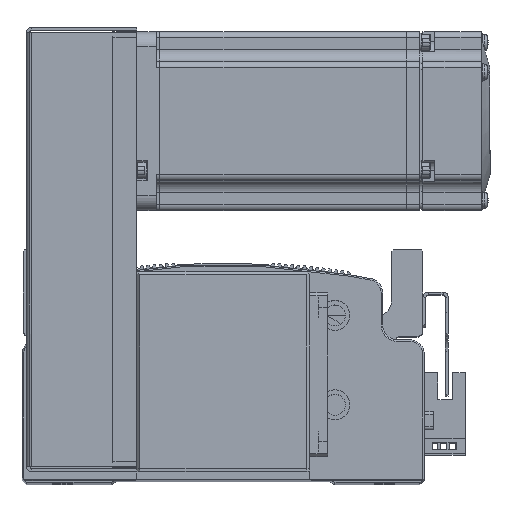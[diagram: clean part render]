
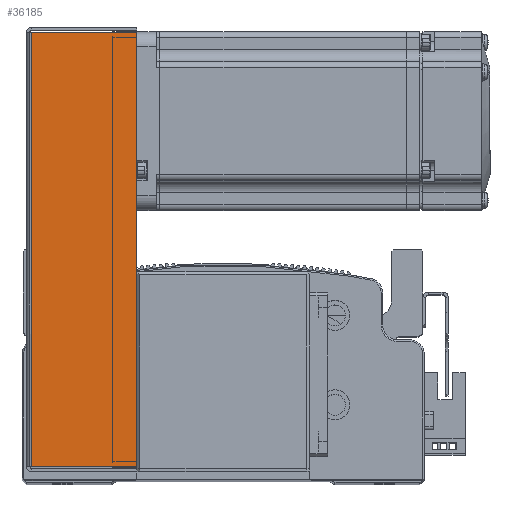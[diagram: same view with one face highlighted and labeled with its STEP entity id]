
A CAD part, top view. The second image highlights one B-rep face of the part: STEP entity #36185.
In plain terms, the highlighted planar face has unit normal (0, 0, 1).
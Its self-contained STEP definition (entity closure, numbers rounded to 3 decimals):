
#2528 = CARTESIAN_POINT ( 'NONE',  ( -74.5, 0.737, 34.5 ) ) ;
#2529 = DIRECTION ( 'NONE',  ( -1., 0., 0. ) ) ;
#2692 = CARTESIAN_POINT ( 'NONE',  ( -72.793, 0., 34.5 ) ) ;
#2698 = DIRECTION ( 'NONE',  ( 0., 1., 0. ) ) ;
#2730 = CARTESIAN_POINT ( 'NONE',  ( 0., 36., 34.5 ) ) ;
#2733 = DIRECTION ( 'NONE',  ( -1., 0., 0. ) ) ;
#2745 = CARTESIAN_POINT ( 'NONE',  ( 72.793, 0., 34.5 ) ) ;
#2761 = DIRECTION ( 'NONE',  ( 0., 1., 0. ) ) ;
#14157 = EDGE_LOOP ( 'NONE', ( #48222, #48184, #48230, #48185 ) ) ;
#18757 = DIRECTION ( 'NONE',  ( 0., 0., -1. ) ) ;
#18775 = PLANE ( 'NONE',  #73832 ) ;
#18793 = DIRECTION ( 'NONE',  ( -1., 0., 0. ) ) ;
#18805 = CARTESIAN_POINT ( 'NONE',  ( 0., 0., 34.5 ) ) ;
#26744 = EDGE_CURVE ( 'NONE', #75368, #75375, #41429, .T. ) ;
#26877 = EDGE_CURVE ( 'NONE', #75375, #75364, #41740, .T. ) ;
#26894 = EDGE_CURVE ( 'NONE', #75326, #75364, #41716, .T. ) ;
#26916 = EDGE_CURVE ( 'NONE', #75368, #75326, #41650, .T. ) ;
#36185 = ADVANCED_FACE ( 'NONE', ( #66573 ), #18775, .F. ) ;
#41335 = VECTOR ( 'NONE', #2529, 1000. ) ;
#41429 = LINE ( 'NONE', #2528, #41335 ) ;
#41650 = LINE ( 'NONE', #2745, #41724 ) ;
#41716 = LINE ( 'NONE', #2730, #41718 ) ;
#41718 = VECTOR ( 'NONE', #2733, 1000. ) ;
#41724 = VECTOR ( 'NONE', #2761, 1000. ) ;
#41740 = LINE ( 'NONE', #2692, #41806 ) ;
#41806 = VECTOR ( 'NONE', #2698, 1000. ) ;
#48184 = ORIENTED_EDGE ( 'NONE', *, *, #26916, .T. ) ;
#48185 = ORIENTED_EDGE ( 'NONE', *, *, #26877, .F. ) ;
#48222 = ORIENTED_EDGE ( 'NONE', *, *, #26744, .F. ) ;
#48230 = ORIENTED_EDGE ( 'NONE', *, *, #26894, .T. ) ;
#63955 = CARTESIAN_POINT ( 'NONE',  ( 72.793, 36., 34.5 ) ) ;
#64046 = CARTESIAN_POINT ( 'NONE',  ( -72.793, 36., 34.5 ) ) ;
#64072 = CARTESIAN_POINT ( 'NONE',  ( -72.793, 0.737, 34.5 ) ) ;
#64077 = CARTESIAN_POINT ( 'NONE',  ( 72.793, 0.737, 34.5 ) ) ;
#66573 = FACE_OUTER_BOUND ( 'NONE', #14157, .T. ) ;
#73832 = AXIS2_PLACEMENT_3D ( 'NONE', #18805, #18757, #18793 ) ;
#75326 = VERTEX_POINT ( 'NONE', #63955 ) ;
#75364 = VERTEX_POINT ( 'NONE', #64046 ) ;
#75368 = VERTEX_POINT ( 'NONE', #64077 ) ;
#75375 = VERTEX_POINT ( 'NONE', #64072 ) ;
